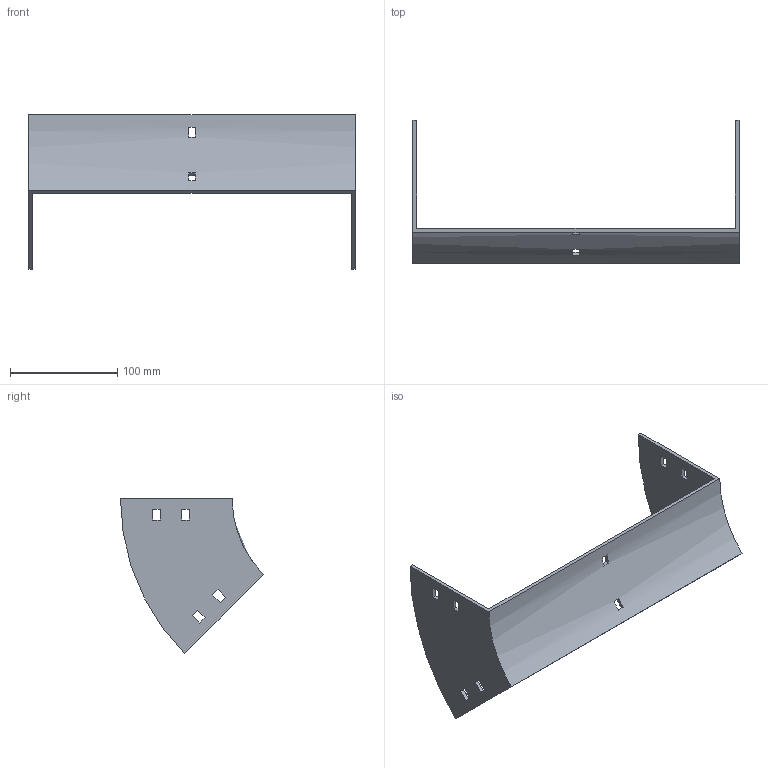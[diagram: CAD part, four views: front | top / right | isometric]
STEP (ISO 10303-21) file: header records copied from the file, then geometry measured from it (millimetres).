
FILE_DESCRIPTION (( 'STEP AP214' ), '1' );
FILE_NAME ('34B1D300.step', '2025-02-21T09:27:27', ( '' ), ( '' ), 'SwSTEP 2.0', 'SolidWorks 2023', '' );
FILE_SCHEMA (( 'AUTOMOTIVE_DESIGN' ));
Length unit declared in the file: millimetre
Products named in the file (1): 34B1D300
Bounding box: 304 x 133.29 x 144.25 mm (x, y, z)
Volume: 167604.8 mm3; surface area: 101593.1 mm2
Topology: 1 solids, 1 shells, 50 faces, 144 edges, 96 vertices
Faces by surface type: plane 46, cylinder 4
Entity records: 1687 total; most frequent: CARTESIAN_POINT 291, ORIENTED_EDGE 288, DIRECTION 262, EDGE_CURVE 144, VECTOR 128, LINE 128, VERTEX_POINT 96, EDGE_LOOP 70
